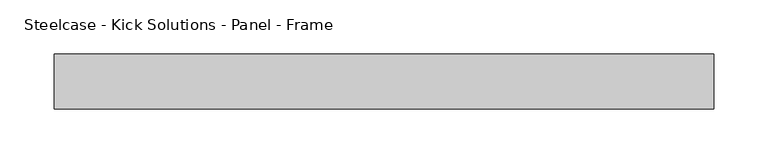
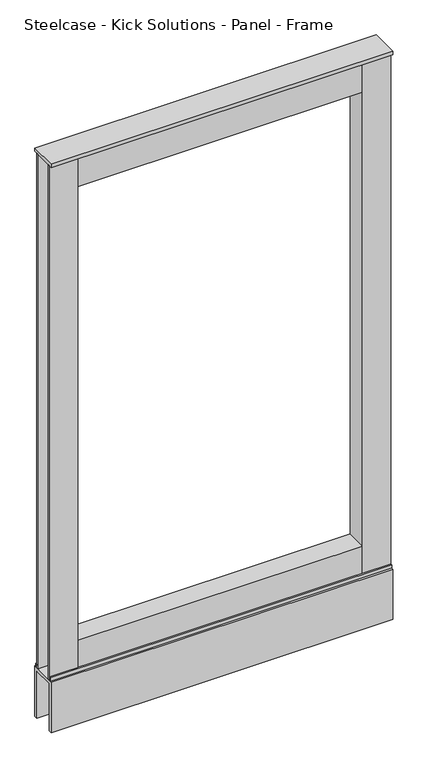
"""IFC4 building model written with IfcOpenShell, lengths in millimetres: furniture geometry, Steelcase - Kick Solutions - Panel - Frame : 42H x 24W."""

from ifc_helpers import new_model, si_unit, frame, origin, place, context, project, spatial, polyline, outline, extrude, source, transform, mapped, element, save


def steelcase_kick_solutions_panel_frame_d36ad7f8(model_context):
    return source(origin(), model_context, "Body", "SweptSolid", [
        extrude(outline(polyline([(50.8006646, 6.3506854), (50.8006646, -31.7493123), (0.0, -31.7493123), (0.0, -29.2093123), (48.2606646, -29.2093123), (48.2606646, 3.8106854), (0.0, 3.8106854), (0.0, 6.3506854), (50.8006646, 6.3506854)])), frame((0.0, 0.0, 95.25), z_axis=(0.0, 0.0, 1.0), x_axis=(1.0, 0.0, 0.0)), (0.0, 0.0, 1.0), 971.55),
        extrude(outline(polyline([(558.8006661, 6.3506854), (609.6, 6.3506854), (609.6, 3.8106854), (561.3393354, 3.8106854), (561.3393354, -29.2093123), (609.6, -29.2093123), (609.6, -31.7493123), (558.8006661, -31.7493123), (558.8006661, 6.3506854)])), frame((0.0, 0.0, 95.25), z_axis=(0.0, 0.0, 1.0), x_axis=(1.0, 0.0, 0.0)), (0.0, 0.0, 1.0), 971.55),
        extrude(outline(polyline([(6.3506854, 101.600003), (9.5256855, 101.600003), (9.5256855, 95.25), (8.409661, 95.25), (8.409661, 100.2902081), (6.3506854, 100.2902081), (6.3506854, 101.600003)])), frame((0.0, 0.0, 0.0), z_axis=(1.0, 0.0, 0.0), x_axis=(0.0, 1.0, 0.0)), (0.0, 0.0, 1.0), 609.6),
        extrude(outline(polyline([(-34.9243138, 101.600003), (-31.7493123, 101.600003), (-31.7493123, 100.2902081), (-33.8479845, 100.2902081), (-33.8479845, 95.25), (-34.9243138, 95.25), (-34.9243138, 101.600003)])), frame((0.0, 0.0, 0.0), z_axis=(1.0, 0.0, 0.0), x_axis=(0.0, 1.0, 0.0)), (0.0, 0.0, 1.0), 609.6),
        extrude(outline(polyline([(558.8006661, -31.7493123), (50.8006646, -31.7493123), (50.8006646, 6.3506854), (558.8006661, 6.3506854), (558.8006661, -31.7493123)])), frame((0.0, 0.0, 1009.6500242), z_axis=(0.0, 0.0, 1.0), x_axis=(1.0, 0.0, 0.0)), (0.0, 0.0, 1.0), 57.1499758),
        extrude(outline(polyline([(558.8006661, -31.7493123), (50.8006646, -31.7493123), (50.8006646, 6.3506854), (558.8006661, 6.3506854), (558.8006661, -31.7493123)])), frame((0.0, 0.0, 95.25), z_axis=(0.0, 0.0, 1.0), x_axis=(1.0, 0.0, 0.0)), (0.0, 0.0, 1.0), 57.15),
        extrude(outline(polyline([(609.6, 12.7000004), (609.6, -38.1000011), (0.0, -38.1000011), (0.0, 12.7000004), (609.6, 12.7000004)])), frame((0.0, 0.0, 1066.8), z_axis=(0.0, 0.0, 1.0), x_axis=(1.0, 0.0, 0.0)), (0.0, 0.0, 1.0), 6.35),
        extrude(outline(polyline([(-38.1000011, 95.25), (12.7000004, 95.25), (12.7000004, 0.0), (6.3506854, 0.0), (6.3506854, 88.9), (-31.7493123, 88.9), (-31.7493123, 0.0), (-38.1000011, 0.0), (-38.1000011, 95.25)])), frame((0.0, 0.0, 0.0), z_axis=(1.0, 0.0, 0.0), x_axis=(0.0, 1.0, 0.0)), (0.0, 0.0, 1.0), 609.6),
    ])


if __name__ == "__main__":
    model = new_model("IFC4")
    model_context = context("Model", 3, world=origin())
    ifc_project = project(units=[si_unit("LENGTHUNIT", "METRE", prefix="MILLI")], contexts=[model_context])
    site = spatial("IfcSite", under=ifc_project)
    building = spatial("IfcBuilding", under=site)
    placement = place(None, origin())
    steelcase_kick_solutions_panel_frame_shape = steelcase_kick_solutions_panel_frame_d36ad7f8(model_context)
    element("IfcFurniture", 1, ObjectType="Steelcase - Kick Solutions - Panel - Frame : 42H x 24W", at=placement, inside=building, context=model_context, shape_type="MappedRepresentation", body=[
        mapped(steelcase_kick_solutions_panel_frame_shape, transform((0.0, 0.0, 0.0), x_axis=(1.0, 0.0, 0.0), y_axis=(0.0, 1.0, 0.0), z_axis=(0.0, 0.0, 1.0))),
    ])
    save(model, "model.ifc")
